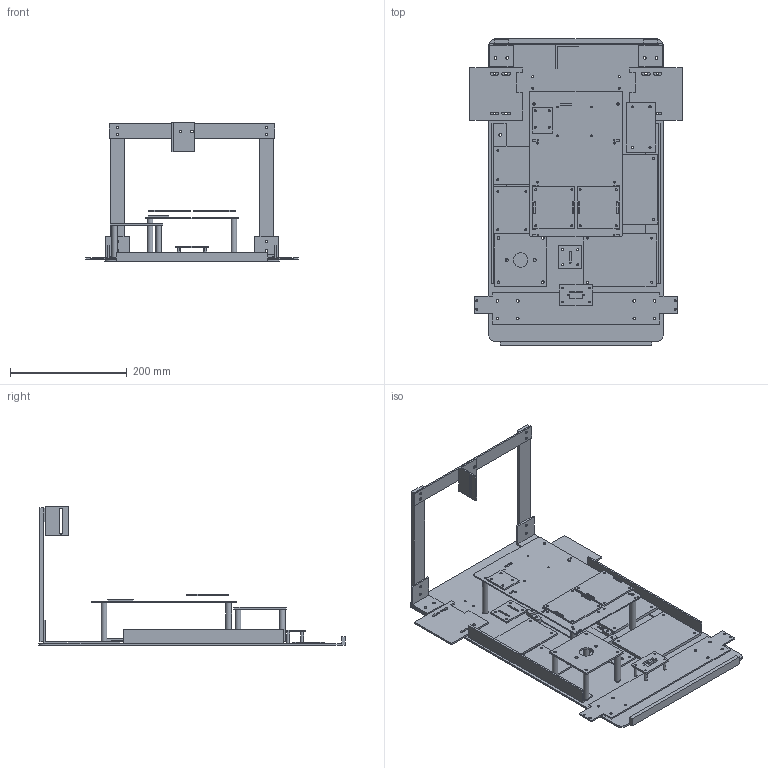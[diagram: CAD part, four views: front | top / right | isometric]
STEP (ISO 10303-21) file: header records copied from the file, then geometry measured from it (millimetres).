
FILE_DESCRIPTION(('Open CASCADE Model'),'2;1');
FILE_NAME('Open CASCADE Shape Model','2026-10-15T18:21:35',('Author'),( 'Open CASCADE'),'Open CASCADE STEP processor 7.9','Open CASCADE 7.9' ,'Unknown');
FILE_SCHEMA(('AUTOMOTIVE_DESIGN { 1 0 10303 214 1 1 1 1 }'));
Length unit declared in the file: millimetre
Products named in the file (70): chassis-a2-r1-nu; C01_1; C05_1; C06_1; C12_1; C13_1; C14_1; C15_1; C11G_1; C11D_1; C04D_1; C04G_1; C03_1; C07_1; C08_1; C02_1; C09_1; C09_2; C10_1; C16_1; C16_2; C17_1; C17_2; C17_3; C17_4; C18_1; C18_2; C19_1; L01_longeron_-1; L01_longeron_1; L02_pied_camera_-128; L02_pied_camera_128; L03_angle_pivot_camera; T01_L70_-72_194; T01_L70_-72_408; T01_L70_72_194; T01_L70_72_408; T02_L56_-133_102; T02_L56_-133_178; T02_L56_-57_102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
Assembly tree (69 placements, depth 2):
  chassis-a2-r1-nu
    C01_1
    C05_1
    C06_1
    C12_1
    C13_1
    C14_1
    C15_1
    C11G_1
    C11D_1
    C04D_1
    C04G_1
    C03_1
    C07_1
    C08_1
    C02_1
    C09_1
    C09_2
    C10_1
    C16_1
    C16_2
    C17_1
    C17_2
    C17_3
    C17_4
    C18_1
    C18_2
    C19_1
    L01_longeron_-1
    L01_longeron_1
    L02_pied_camera_-128
    L02_pied_camera_128
    L03_angle_pivot_camera
    T01_L70_-72_194
    T01_L70_-72_408
    T01_L70_72_194
    T01_L70_72_408
    T02_L56_-133_102
    T02_L56_-133_178
    T02_L56_-57_102
    T02_L56_-57_178
    N01_entretoise_servo_-23_68
    N01_entretoise_servo_-23_92
    N01_entretoise_servo_23_68
    N01_entretoise_servo_23_92
    N02_cale3_44
    N02_cale3_45
    N02_cale3_46
    N02_cale3_47
    N02_cale3_48
    N02_cale3_49
    N02_cale3_50
    N02_cale3_51
    N02_cale3_52
    N02_cale3_53
    N02_cale3_54
    N02_cale3_55
    N02_cale3_56
    N02_cale3_57
    N02_cale3_58
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Bounding box: 364 x 526 x 238 mm (x, y, z)
Volume: 1163420.1 mm3; surface area: 802456.7 mm2
Topology: 69 solids, 69 shells, 721 faces, 1749 edges, 1166 vertices
Faces by surface type: plane 364, cylinder 357
Full cylindrical faces by diameter (mm): 2.2 x2, 2.7 x18, 3.5 x137, 4.5 x90, 5 x4, 5.5 x2, 6 x23, 10 x8, 25 x1
Entity records: 47237 total; most frequent: CARTESIAN_POINT 7966, DIRECTION 7411, LINE 3813, VECTOR 3813, ORIENTED_EDGE 3498, PCURVE 3498, DEFINITIONAL_REPRESENTATION 3498, EDGE_CURVE 1749
